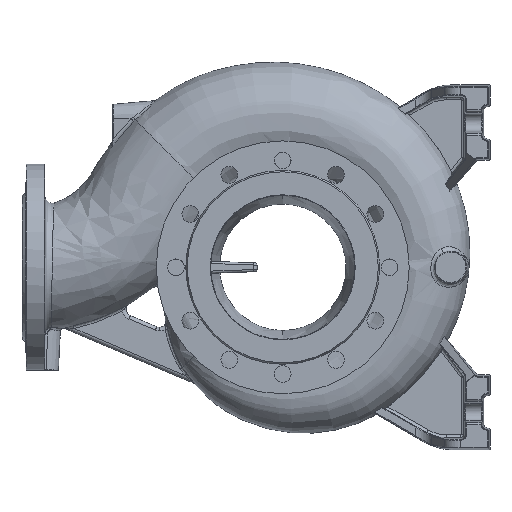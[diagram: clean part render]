
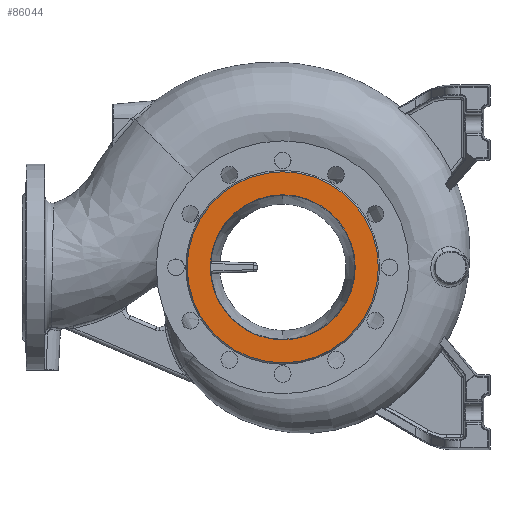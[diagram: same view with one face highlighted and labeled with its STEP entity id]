
A CAD part, left-side view. The second image highlights one B-rep face of the part: STEP entity #86044.
In plain terms, the highlighted planar face has unit normal (-1, 0, 0).
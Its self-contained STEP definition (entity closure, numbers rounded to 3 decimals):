
#1385 = CARTESIAN_POINT ( 'NONE',  ( -164., 0., 100.162 ) ) ;
#2396 = DIRECTION ( 'NONE',  ( -1., 0., 0. ) ) ;
#3711 = DIRECTION ( 'NONE',  ( -1., 0., 0. ) ) ;
#5562 = CIRCLE ( 'NONE', #14864, 131.933 ) ;
#12238 = AXIS2_PLACEMENT_3D ( 'NONE', #144669, #70847, #157034 ) ;
#13905 = DIRECTION ( 'NONE',  ( -1., 0., 0. ) ) ;
#14864 = AXIS2_PLACEMENT_3D ( 'NONE', #77542, #3711, #89930 ) ;
#25194 = CIRCLE ( 'NONE', #47701, 100.162 ) ;
#25658 = PLANE ( 'NONE',  #78733 ) ;
#31076 = EDGE_LOOP ( 'NONE', ( #54436, #130862 ) ) ;
#32904 = CARTESIAN_POINT ( 'NONE',  ( -164., 0., 131.933 ) ) ;
#34195 = CARTESIAN_POINT ( 'NONE',  ( -164., 0., -131.933 ) ) ;
#47701 = AXIS2_PLACEMENT_3D ( 'NONE', #87705, #13905, #100084 ) ;
#49186 = FACE_BOUND ( 'NONE', #97959, .T. ) ;
#54436 = ORIENTED_EDGE ( 'NONE', *, *, #146264, .T. ) ;
#59666 = ORIENTED_EDGE ( 'NONE', *, *, #82557, .F. ) ;
#59785 = VERTEX_POINT ( 'NONE', #1385 ) ;
#62845 = DIRECTION ( 'NONE',  ( 0., 0., -1. ) ) ;
#70847 = DIRECTION ( 'NONE',  ( -1., 0., 0. ) ) ;
#76239 = CARTESIAN_POINT ( 'NONE',  ( -164., 0., 0. ) ) ;
#77542 = CARTESIAN_POINT ( 'NONE',  ( -164., 0., 0. ) ) ;
#78733 = AXIS2_PLACEMENT_3D ( 'NONE', #99461, #136659, #62845 ) ;
#81227 = VERTEX_POINT ( 'NONE', #144932 ) ;
#81970 = FACE_OUTER_BOUND ( 'NONE', #31076, .T. ) ;
#82557 = EDGE_CURVE ( 'NONE', #81227, #59785, #85983, .T. ) ;
#85983 = CIRCLE ( 'NONE', #115763, 100.162 ) ;
#86044 = ADVANCED_FACE ( 'NONE', ( #49186, #81970 ), #25658, .F. ) ;
#87705 = CARTESIAN_POINT ( 'NONE',  ( -164., 0., 0. ) ) ;
#88622 = DIRECTION ( 'NONE',  ( 0., 0., 1. ) ) ;
#89930 = DIRECTION ( 'NONE',  ( 0., 0., 1. ) ) ;
#97959 = EDGE_LOOP ( 'NONE', ( #156101, #59666 ) ) ;
#99461 = CARTESIAN_POINT ( 'NONE',  ( -164., 131.933, 0. ) ) ;
#100084 = DIRECTION ( 'NONE',  ( 0., 0., 1. ) ) ;
#107276 = VERTEX_POINT ( 'NONE', #32904 ) ;
#108878 = VERTEX_POINT ( 'NONE', #34195 ) ;
#115763 = AXIS2_PLACEMENT_3D ( 'NONE', #76239, #2396, #88622 ) ;
#119850 = EDGE_CURVE ( 'NONE', #59785, #81227, #25194, .T. ) ;
#124321 = CIRCLE ( 'NONE', #12238, 131.933 ) ;
#128783 = EDGE_CURVE ( 'NONE', #107276, #108878, #5562, .T. ) ;
#130862 = ORIENTED_EDGE ( 'NONE', *, *, #128783, .T. ) ;
#136659 = DIRECTION ( 'NONE',  ( 1., 0., 0. ) ) ;
#144669 = CARTESIAN_POINT ( 'NONE',  ( -164., 0., 0. ) ) ;
#144932 = CARTESIAN_POINT ( 'NONE',  ( -164., 0., -100.162 ) ) ;
#146264 = EDGE_CURVE ( 'NONE', #108878, #107276, #124321, .T. ) ;
#156101 = ORIENTED_EDGE ( 'NONE', *, *, #119850, .F. ) ;
#157034 = DIRECTION ( 'NONE',  ( 0., 0., 1. ) ) ;
